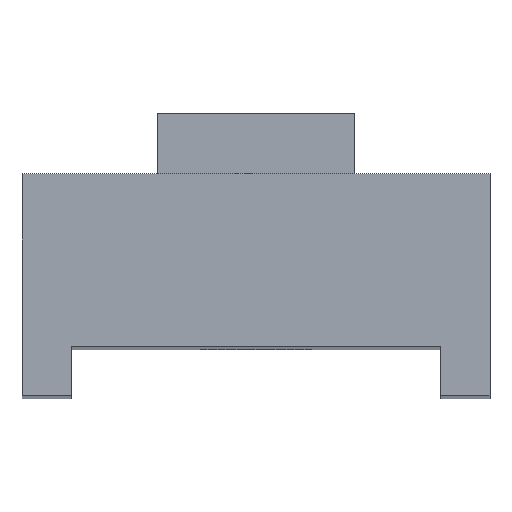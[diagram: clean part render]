
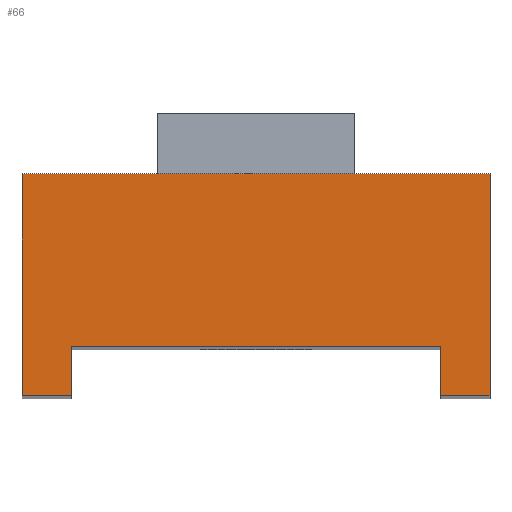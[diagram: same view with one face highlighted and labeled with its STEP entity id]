
A CAD part, top view. The second image highlights one B-rep face of the part: STEP entity #66.
In plain terms, the highlighted planar face has unit normal (0, 0, 1).
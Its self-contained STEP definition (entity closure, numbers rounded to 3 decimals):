
#66=ADVANCED_FACE('',(#221),#223,.T.);
#221=FACE_BOUND('',#222,.T.);
#222=EDGE_LOOP('',(#348,#349,#350,#351,#352,#353,#354,#355));
#223=PLANE('',#224);
#224=AXIS2_PLACEMENT_3D('',#225,#226,#227);
#225=CARTESIAN_POINT('',(0.,0.,40.));
#226=DIRECTION('',(0.,0.,1.));
#227=DIRECTION('',(-1.,0.,0.));
#348=ORIENTED_EDGE('',*,*,#416,.T.);
#349=ORIENTED_EDGE('',*,*,#427,.T.);
#350=ORIENTED_EDGE('',*,*,#428,.T.);
#351=ORIENTED_EDGE('',*,*,#429,.T.);
#352=ORIENTED_EDGE('',*,*,#430,.T.);
#353=ORIENTED_EDGE('',*,*,#431,.T.);
#354=ORIENTED_EDGE('',*,*,#432,.T.);
#355=ORIENTED_EDGE('',*,*,#433,.T.);
#416=EDGE_CURVE('',#459,#457,#460,.F.);
#427=EDGE_CURVE('',#457,#479,#480,.T.);
#428=EDGE_CURVE('',#479,#481,#482,.T.);
#429=EDGE_CURVE('',#481,#483,#484,.T.);
#430=EDGE_CURVE('',#483,#485,#486,.T.);
#431=EDGE_CURVE('',#485,#487,#488,.T.);
#432=EDGE_CURVE('',#487,#489,#490,.T.);
#433=EDGE_CURVE('',#489,#459,#491,.T.);
#457=VERTEX_POINT('',#527);
#459=VERTEX_POINT('',#531);
#460=LINE('',#532,#533);
#479=VERTEX_POINT('',#575);
#480=LINE('',#576,#577);
#481=VERTEX_POINT('',#579);
#482=LINE('',#580,#581);
#483=VERTEX_POINT('',#583);
#484=LINE('',#584,#585);
#485=VERTEX_POINT('',#587);
#486=LINE('',#588,#589);
#487=VERTEX_POINT('',#591);
#488=LINE('',#592,#593);
#489=VERTEX_POINT('',#595);
#490=LINE('',#596,#597);
#491=LINE('',#599,#600);
#527=CARTESIAN_POINT('',(-9.5,10.,40.));
#531=CARTESIAN_POINT('',(9.5,10.,40.));
#532=CARTESIAN_POINT('',(-9.5,10.,40.));
#533=VECTOR('',#534,1.);
#534=DIRECTION('',(1.,0.,0.));
#575=CARTESIAN_POINT('',(-9.5,1.,40.));
#576=CARTESIAN_POINT('',(-9.5,10.,40.));
#577=VECTOR('',#578,1.);
#578=DIRECTION('',(0.,-1.,0.));
#579=CARTESIAN_POINT('',(-7.5,1.,40.));
#580=CARTESIAN_POINT('',(-9.5,1.,40.));
#581=VECTOR('',#582,1.);
#582=DIRECTION('',(1.,0.,0.));
#583=CARTESIAN_POINT('',(-7.5,3.,40.));
#584=CARTESIAN_POINT('',(-7.5,1.,40.));
#585=VECTOR('',#586,1.);
#586=DIRECTION('',(0.,1.,0.));
#587=CARTESIAN_POINT('',(7.5,3.,40.));
#588=CARTESIAN_POINT('',(-7.5,3.,40.));
#589=VECTOR('',#590,1.);
#590=DIRECTION('',(1.,0.,0.));
#591=CARTESIAN_POINT('',(7.5,1.,40.));
#592=CARTESIAN_POINT('',(7.5,3.,40.));
#593=VECTOR('',#594,1.);
#594=DIRECTION('',(0.,-1.,0.));
#595=CARTESIAN_POINT('',(9.5,1.,40.));
#596=CARTESIAN_POINT('',(7.5,1.,40.));
#597=VECTOR('',#598,1.);
#598=DIRECTION('',(1.,0.,0.));
#599=CARTESIAN_POINT('',(9.5,1.,40.));
#600=VECTOR('',#601,1.);
#601=DIRECTION('',(0.,1.,0.));
